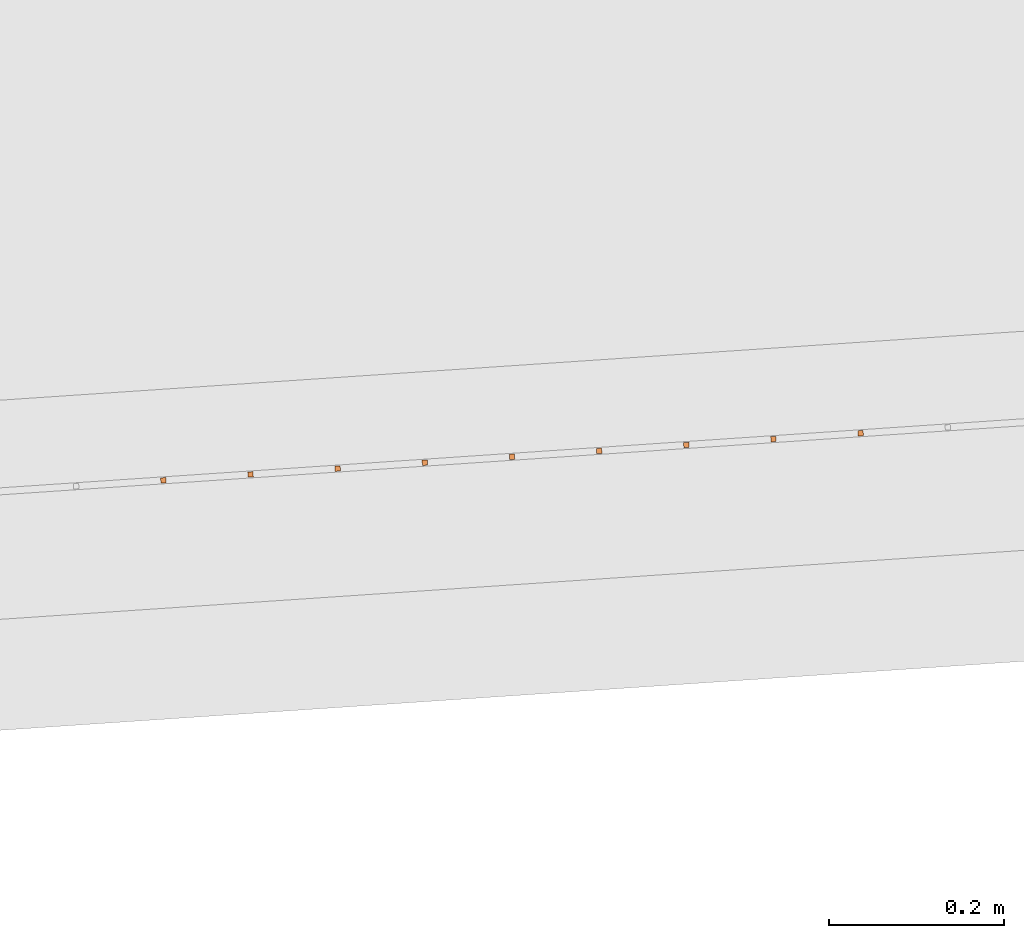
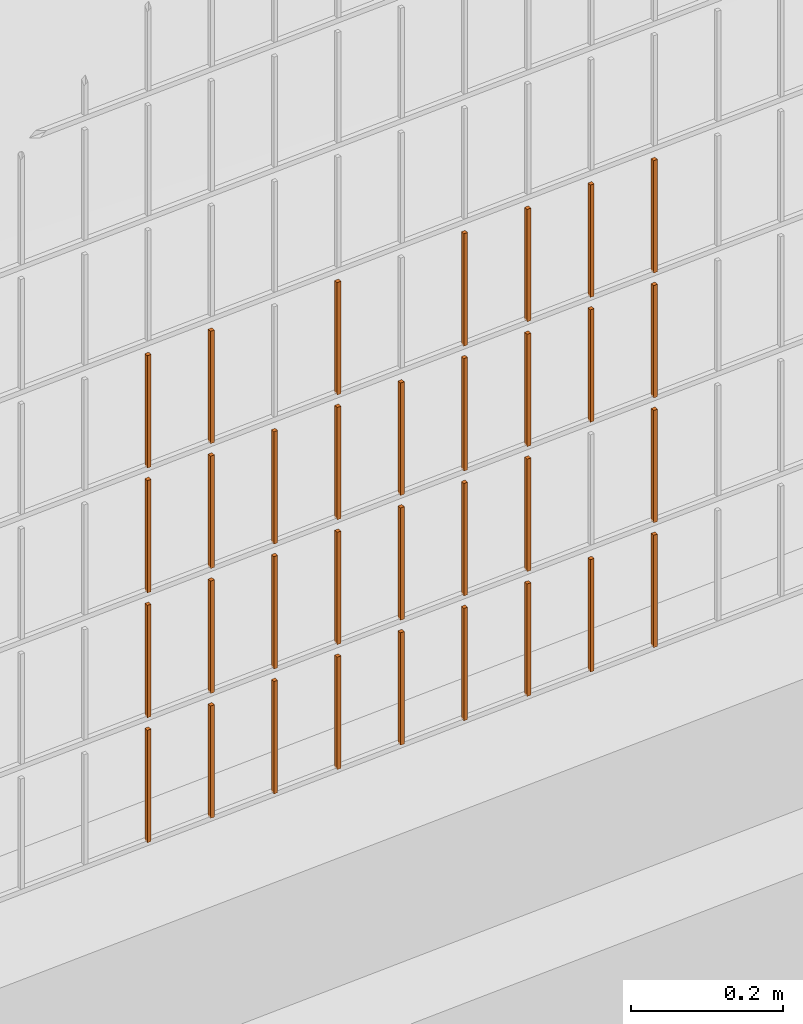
# One storey, part 361 of 1809: 33 proxies, 1 element without a shape of its own.
"""IFC2X3 building model written with IfcOpenShell, lengths in millimetres."""

from ifc_helpers import new_model, entity, si_unit, converted_unit, derived_unit, money_unit, direction, frame, origin_with_axes, place, context, subcontext, project, spatial, faceted_brep, source, transform, mapped, material, type_object, element, aggregate, save


model = new_model("IFC2X3")

# Units and contexts
model_context = context("Model", 3, precision=0.01, world=origin_with_axes(), true_north=direction((0.0, 1.0)))
body_context = subcontext(model_context, "Body", "Model", "MODEL_VIEW")
ifc_project = project(units=[si_unit("LENGTHUNIT", "METRE", prefix="MILLI"), si_unit("AREAUNIT", "SQUARE_METRE"), si_unit("VOLUMEUNIT", "CUBIC_METRE"), converted_unit("PLANEANGLEUNIT", "DEGREE", entity("IfcPlaneAngleMeasure", 0.0174532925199), si_unit("PLANEANGLEUNIT", "RADIAN"), dimensions=[0, 0, 0, 0, 0, 0, 0]), si_unit("SOLIDANGLEUNIT", "STERADIAN"), money_unit("EUR"), converted_unit("TIMEUNIT", "Year", entity("IfcTimeMeasure", 31556926.0), si_unit("TIMEUNIT", "SECOND"), dimensions=[0, 0, 1, 0, 0, 0, 0]), si_unit("MASSUNIT", "GRAM", prefix="KILO"), si_unit("THERMODYNAMICTEMPERATUREUNIT", "DEGREE_CELSIUS"), si_unit("LUMINOUSINTENSITYUNIT", "LUMEN"), si_unit("ENERGYUNIT", "JOULE", prefix="MEGA"), derived_unit("THERMALCONDUCTANCEUNIT", [(si_unit("POWERUNIT", "WATT"), 1), (si_unit("LENGTHUNIT", "METRE"), -1), (si_unit("THERMODYNAMICTEMPERATUREUNIT", "KELVIN"), -1)]), derived_unit("SPECIFICHEATCAPACITYUNIT", [(si_unit("ENERGYUNIT", "JOULE"), 1), (si_unit("MASSUNIT", "GRAM", prefix="KILO"), -1), (si_unit("THERMODYNAMICTEMPERATUREUNIT", "KELVIN"), -1)]), derived_unit("MASSDENSITYUNIT", [(si_unit("MASSUNIT", "GRAM", prefix="KILO"), 1), (si_unit("VOLUMEUNIT", "CUBIC_METRE"), -1)])], contexts=[model_context])

# Site, building, storey
site_placement = place(None, origin_with_axes())
site = spatial("IfcSite", under=ifc_project, at=site_placement, Name="Politse- ja Piirivalveameti ning Päästeameti ühishoone", CompositionType="ELEMENT")
building_placement = place(site_placement, origin_with_axes())
building = spatial("IfcBuilding", under=site, at=building_placement, Name="Politse- ja Piirivalveameti ning Päästeameti ühishoone", CompositionType="ELEMENT")
storey_placement = place(building_placement, origin_with_axes())
storey = spatial("IfcBuildingStorey", under=building, at=storey_placement, Name="Esimene korrus", CompositionType="ELEMENT", Elevation=0.0)

# Proxies
building_element_proxy_type_1 = type_object("IfcBuildingElementProxyType", Name="Railing Type", PredefinedType="NOTDEFINED")
proxy_1_placement = place(storey_placement, frame((89252.001212, -29183.4766571, 203.661247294), z_axis=(0.0, 0.0, 1.0), x_axis=(1.0, 0.0, 0.0)))
proxy_1 = element("IfcBuildingElementProxy", 1, at=proxy_1_placement, inside=storey, type_object=building_element_proxy_type_1, Name="PIIRDEAED")
ifc_material = material(Name="ET-03_Raud")
building_element_proxy_type_2 = type_object("IfcBuildingElementProxyType", Name="IfcBuildingElementProxy", PredefinedType="NOTDEFINED")
shared_shape_1 = source(origin_with_axes(), body_context, "Body", "Brep", [
    faceted_brep([(3.0, 3.0, -0.000752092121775), (-3.0, 3.0, -0.000752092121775), (-3.0, 3.0, 179.99926046), (3.0, 3.0, 179.99926046), (3.0, -3.0, 0.000752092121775), (-3.0, -3.0, 0.000752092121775), (-3.0, -3.0, 180.000764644), (3.0, -3.0, 180.000764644)], [[[0, 1, 2, 3]], [[0, 4, 5, 1]], [[1, 5, 6, 2]], [[3, 2, 6, 7]], [[4, 0, 3, 7]], [[5, 4, 7, 6]]]),
])
proxy_2_placement = place(proxy_1_placement, frame((-23473.2007557, -18883.300888, 21.3363066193), z_axis=(0.0, 0.0, 1.0), x_axis=(1.0, 0.0, 0.0)))
proxy_2 = element("IfcBuildingElementProxy", 2, at=proxy_2_placement, type_object=building_element_proxy_type_2, material=ifc_material, Name="BALUSTER - 001", context=body_context, shape_type="MappedRepresentation", body=[
    mapped(shared_shape_1, transform((0.0, 0.0, 0.0), x_axis=(-0.0673926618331, 0.997726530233, 0.0), y_axis=(-0.997726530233, -0.0673926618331, 0.0), z_axis=(0.0, 0.0, 1.0))),
])
proxy_3_placement = place(proxy_1_placement, frame((-23473.2007557, -18883.300888, 221.336306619), z_axis=(0.0, 0.0, 1.0), x_axis=(1.0, 0.0, 0.0)))
proxy_3 = element("IfcBuildingElementProxy", 3, at=proxy_3_placement, type_object=building_element_proxy_type_2, material=ifc_material, Name="BALUSTER - 001", context=body_context, shape_type="MappedRepresentation", body=[
    mapped(shared_shape_1, transform((0.0, 0.0, 0.0), x_axis=(-0.0673926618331, 0.997726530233, 0.0), y_axis=(-0.997726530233, -0.0673926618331, 0.0), z_axis=(0.0, 0.0, 1.0))),
])
shared_shape_2 = source(origin_with_axes(), body_context, "Body", "Brep", [
    faceted_brep([(3.0, 3.0, -0.000752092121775), (-3.0, 3.0, -0.000752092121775), (-3.0, 3.0, 179.99926046), (3.0, 3.0, 179.99926046), (3.0, -3.0, 0.000752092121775), (-3.0, -3.0, 0.000752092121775), (-3.0, -3.0, 180.000764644), (3.0, -3.0, 180.000764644)], [[[0, 1, 2, 3]], [[0, 4, 5, 1]], [[1, 5, 6, 2]], [[3, 2, 6, 7]], [[4, 0, 3, 7]], [[5, 4, 7, 6]]]),
])
proxy_4_placement = place(proxy_1_placement, frame((-23473.2007557, -18883.300888, 421.336306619), z_axis=(0.0, 0.0, 1.0), x_axis=(1.0, 0.0, 0.0)))
proxy_4 = element("IfcBuildingElementProxy", 4, at=proxy_4_placement, type_object=building_element_proxy_type_2, material=ifc_material, Name="BALUSTER - 001", context=body_context, shape_type="MappedRepresentation", body=[
    mapped(shared_shape_2, transform((0.0, 0.0, 0.0), x_axis=(-0.0673926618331, 0.997726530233, 0.0), y_axis=(-0.997726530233, -0.0673926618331, 0.0), z_axis=(0.0, 0.0, 1.0))),
])
shared_shape_3 = source(origin_with_axes(), body_context, "Body", "Brep", [
    faceted_brep([(3.0, 3.0, -0.000752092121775), (-3.0, 3.0, -0.000752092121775), (-3.0, 3.0, 179.99926046), (3.0, 3.0, 179.99926046), (3.0, -3.0, 0.000752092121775), (-3.0, -3.0, 0.000752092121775), (-3.0, -3.0, 180.000764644), (3.0, -3.0, 180.000764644)], [[[0, 1, 2, 3]], [[0, 4, 5, 1]], [[1, 5, 6, 2]], [[3, 2, 6, 7]], [[4, 0, 3, 7]], [[5, 4, 7, 6]]]),
])
proxy_5_placement = place(proxy_1_placement, frame((-23473.2007557, -18883.300888, 621.336306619), z_axis=(0.0, 0.0, 1.0), x_axis=(1.0, 0.0, 0.0)))
proxy_5 = element("IfcBuildingElementProxy", 5, at=proxy_5_placement, type_object=building_element_proxy_type_2, material=ifc_material, Name="BALUSTER - 001", context=body_context, shape_type="MappedRepresentation", body=[
    mapped(shared_shape_3, transform((0.0, 0.0, 0.0), x_axis=(-0.0673926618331, 0.997726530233, 0.0), y_axis=(-0.997726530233, -0.0673926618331, 0.0), z_axis=(0.0, 0.0, 1.0))),
])
shared_shape_4 = source(origin_with_axes(), body_context, "Body", "Brep", [
    faceted_brep([(3.0, 3.0, -0.000752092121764), (-3.0, 3.0, -0.000752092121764), (-3.0, 3.0, 179.99926046), (3.0, 3.0, 179.99926046), (3.0, -3.0, 0.000752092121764), (-3.0, -3.0, 0.000752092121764), (-3.0, -3.0, 180.000764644), (3.0, -3.0, 180.000764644)], [[[0, 1, 2, 3]], [[0, 4, 5, 1]], [[1, 5, 6, 2]], [[3, 2, 6, 7]], [[4, 0, 3, 7]], [[5, 4, 7, 6]]]),
])
proxy_6_placement = place(proxy_1_placement, frame((-23872.2913678, -18910.2579527, 21.2360276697), z_axis=(0.0, 0.0, 1.0), x_axis=(1.0, 0.0, 0.0)))
proxy_6 = element("IfcBuildingElementProxy", 6, at=proxy_6_placement, type_object=building_element_proxy_type_2, material=ifc_material, Name="BALUSTER - 001", context=body_context, shape_type="MappedRepresentation", body=[
    mapped(shared_shape_4, transform((0.0, 0.0, 0.0), x_axis=(-0.0673926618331, 0.997726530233, 0.0), y_axis=(-0.997726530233, -0.0673926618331, 0.0), z_axis=(0.0, 0.0, 1.0))),
])
shared_shape_5 = source(origin_with_axes(), body_context, "Body", "Brep", [
    faceted_brep([(3.0, 3.0, -0.000752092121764), (-3.0, 3.0, -0.000752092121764), (-3.0, 3.0, 179.99926046), (3.0, 3.0, 179.99926046), (3.0, -3.0, 0.000752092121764), (-3.0, -3.0, 0.000752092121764), (-3.0, -3.0, 180.000764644), (3.0, -3.0, 180.000764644)], [[[0, 1, 2, 3]], [[0, 4, 5, 1]], [[1, 5, 6, 2]], [[3, 2, 6, 7]], [[4, 0, 3, 7]], [[5, 4, 7, 6]]]),
])
proxy_7_placement = place(proxy_1_placement, frame((-23872.2913678, -18910.2579527, 621.23602767), z_axis=(0.0, 0.0, 1.0), x_axis=(1.0, 0.0, 0.0)))
proxy_7 = element("IfcBuildingElementProxy", 7, at=proxy_7_placement, type_object=building_element_proxy_type_2, material=ifc_material, Name="BALUSTER - 001", context=body_context, shape_type="MappedRepresentation", body=[
    mapped(shared_shape_5, transform((0.0, 0.0, 0.0), x_axis=(-0.0673926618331, 0.997726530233, 0.0), y_axis=(-0.997726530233, -0.0673926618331, 0.0), z_axis=(0.0, 0.0, 1.0))),
])
shared_shape_6 = source(origin_with_axes(), body_context, "Body", "Brep", [
    faceted_brep([(3.0, 3.0, -0.000752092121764), (-3.0, 3.0, -0.000752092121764), (-3.0, 3.0, 179.99926046), (3.0, 3.0, 179.99926046), (3.0, -3.0, 0.000752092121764), (-3.0, -3.0, 0.000752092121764), (-3.0, -3.0, 180.000764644), (3.0, -3.0, 180.000764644)], [[[0, 1, 2, 3]], [[0, 4, 5, 1]], [[1, 5, 6, 2]], [[3, 2, 6, 7]], [[4, 0, 3, 7]], [[5, 4, 7, 6]]]),
])
proxy_8_placement = place(proxy_1_placement, frame((-23373.4281026, -18876.5616218, 21.3613763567), z_axis=(0.0, 0.0, 1.0), x_axis=(1.0, 0.0, 0.0)))
proxy_8 = element("IfcBuildingElementProxy", 8, at=proxy_8_placement, type_object=building_element_proxy_type_2, material=ifc_material, Name="BALUSTER - 001", context=body_context, shape_type="MappedRepresentation", body=[
    mapped(shared_shape_6, transform((0.0, 0.0, 0.0), x_axis=(-0.0673926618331, 0.997726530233, 0.0), y_axis=(-0.997726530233, -0.0673926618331, 0.0), z_axis=(0.0, 0.0, 1.0))),
])
shared_shape_7 = source(origin_with_axes(), body_context, "Body", "Brep", [
    faceted_brep([(3.0, 3.0, -0.000752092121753), (-3.0, 3.0, -0.000752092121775), (-3.0, 3.0, 179.99926046), (3.0, 3.0, 179.99926046), (3.0, -3.0, 0.000752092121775), (-3.0, -3.0, 0.000752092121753), (-3.0, -3.0, 180.000764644), (3.0, -3.0, 180.000764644)], [[[0, 1, 2, 3]], [[0, 4, 5, 1]], [[1, 5, 6, 2]], [[3, 2, 6, 7]], [[4, 0, 3, 7]], [[5, 4, 7, 6]]]),
])
proxy_9_placement = place(proxy_1_placement, frame((-23173.8827966, -18863.0830894, 21.4115158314), z_axis=(0.0, 0.0, 1.0), x_axis=(1.0, 0.0, 0.0)))
proxy_9 = element("IfcBuildingElementProxy", 9, at=proxy_9_placement, type_object=building_element_proxy_type_2, material=ifc_material, Name="BALUSTER - 001", context=body_context, shape_type="MappedRepresentation", body=[
    mapped(shared_shape_7, transform((0.0, 0.0, 0.0), x_axis=(-0.0673926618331, 0.997726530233, 0.0), y_axis=(-0.997726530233, -0.0673926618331, 0.0), z_axis=(0.0, 0.0, 1.0))),
])
shared_shape_8 = source(origin_with_axes(), body_context, "Body", "Brep", [
    faceted_brep([(3.0, 3.0, -0.000752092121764), (-3.0, 3.0, -0.000752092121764), (-3.0, 3.0, 179.99926046), (3.0, 3.0, 179.99926046), (3.0, -3.0, 0.000752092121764), (-3.0, -3.0, 0.000752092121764), (-3.0, -3.0, 180.000764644), (3.0, -3.0, 180.000764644)], [[[0, 1, 2, 3]], [[0, 4, 5, 1]], [[1, 5, 6, 2]], [[3, 2, 6, 7]], [[4, 0, 3, 7]], [[5, 4, 7, 6]]]),
])
proxy_10_placement = place(proxy_1_placement, frame((-23273.6554496, -18869.8223556, 21.386446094), z_axis=(0.0, 0.0, 1.0), x_axis=(1.0, 0.0, 0.0)))
proxy_10 = element("IfcBuildingElementProxy", 10, at=proxy_10_placement, type_object=building_element_proxy_type_2, material=ifc_material, Name="BALUSTER - 001", context=body_context, shape_type="MappedRepresentation", body=[
    mapped(shared_shape_8, transform((0.0, 0.0, 0.0), x_axis=(-0.0673926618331, 0.997726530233, 0.0), y_axis=(-0.997726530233, -0.0673926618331, 0.0), z_axis=(0.0, 0.0, 1.0))),
])
shared_shape_9 = source(origin_with_axes(), body_context, "Body", "Brep", [
    faceted_brep([(3.0, 3.0, -0.000752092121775), (-3.0, 3.0, -0.000752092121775), (-3.0, 3.0, 179.99926046), (3.0, 3.0, 179.99926046), (3.0, -3.0, 0.000752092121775), (-3.0, -3.0, 0.000752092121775), (-3.0, -3.0, 180.000764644), (3.0, -3.0, 180.000764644)], [[[0, 1, 2, 3]], [[0, 4, 5, 1]], [[1, 5, 6, 2]], [[3, 2, 6, 7]], [[4, 0, 3, 7]], [[5, 4, 7, 6]]]),
])
proxy_11_placement = place(proxy_1_placement, frame((-23572.9734087, -18890.0401542, 21.3112368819), z_axis=(0.0, 0.0, 1.0), x_axis=(1.0, 0.0, 0.0)))
proxy_11 = element("IfcBuildingElementProxy", 11, at=proxy_11_placement, type_object=building_element_proxy_type_2, material=ifc_material, Name="BALUSTER - 001", context=body_context, shape_type="MappedRepresentation", body=[
    mapped(shared_shape_9, transform((0.0, 0.0, 0.0), x_axis=(-0.0673926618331, 0.997726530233, 0.0), y_axis=(-0.997726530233, -0.0673926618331, 0.0), z_axis=(0.0, 0.0, 1.0))),
])
shared_shape_10 = source(origin_with_axes(), body_context, "Body", "Brep", [
    faceted_brep([(3.0, 3.0, -0.000752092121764), (-3.0, 3.0, -0.000752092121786), (-3.0, 3.0, 179.99926046), (3.0, 3.0, 179.99926046), (3.0, -3.0, 0.000752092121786), (-3.0, -3.0, 0.000752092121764), (-3.0, -3.0, 180.000764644), (3.0, -3.0, 180.000764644)], [[[0, 1, 2, 3]], [[0, 4, 5, 1]], [[1, 5, 6, 2]], [[3, 2, 6, 7]], [[4, 0, 3, 7]], [[5, 4, 7, 6]]]),
])
proxy_12_placement = place(proxy_1_placement, frame((-23672.7460617, -18896.7794204, 21.2861671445), z_axis=(0.0, 0.0, 1.0), x_axis=(1.0, 0.0, 0.0)))
proxy_12 = element("IfcBuildingElementProxy", 12, at=proxy_12_placement, type_object=building_element_proxy_type_2, material=ifc_material, Name="BALUSTER - 001", context=body_context, shape_type="MappedRepresentation", body=[
    mapped(shared_shape_10, transform((0.0, 0.0, 0.0), x_axis=(-0.0673926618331, 0.997726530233, 0.0), y_axis=(-0.997726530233, -0.0673926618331, 0.0), z_axis=(0.0, 0.0, 1.0))),
])
shared_shape_11 = source(origin_with_axes(), body_context, "Body", "Brep", [
    faceted_brep([(3.0, 3.0, -0.000752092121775), (-3.0, 3.0, -0.000752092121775), (-3.0, 3.0, 179.99926046), (3.0, 3.0, 179.99926046), (3.0, -3.0, 0.000752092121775), (-3.0, -3.0, 0.000752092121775), (-3.0, -3.0, 180.000764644), (3.0, -3.0, 180.000764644)], [[[0, 1, 2, 3]], [[0, 4, 5, 1]], [[1, 5, 6, 2]], [[3, 2, 6, 7]], [[4, 0, 3, 7]], [[5, 4, 7, 6]]]),
])
proxy_13_placement = place(proxy_1_placement, frame((-23772.5187147, -18903.5186865, 21.2610974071), z_axis=(0.0, 0.0, 1.0), x_axis=(1.0, 0.0, 0.0)))
proxy_13 = element("IfcBuildingElementProxy", 13, at=proxy_13_placement, type_object=building_element_proxy_type_2, material=ifc_material, Name="BALUSTER - 001", context=body_context, shape_type="MappedRepresentation", body=[
    mapped(shared_shape_11, transform((0.0, 0.0, 0.0), x_axis=(-0.0673926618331, 0.997726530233, 0.0), y_axis=(-0.997726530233, -0.0673926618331, 0.0), z_axis=(0.0, 0.0, 1.0))),
])
shared_shape_12 = source(origin_with_axes(), body_context, "Body", "Brep", [
    faceted_brep([(3.0, 3.0, -0.000752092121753), (-3.0, 3.0, -0.000752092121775), (-3.0, 3.0, 179.99926046), (3.0, 3.0, 179.99926046), (3.0, -3.0, 0.000752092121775), (-3.0, -3.0, 0.000752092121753), (-3.0, -3.0, 180.000764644), (3.0, -3.0, 180.000764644)], [[[0, 1, 2, 3]], [[0, 4, 5, 1]], [[1, 5, 6, 2]], [[3, 2, 6, 7]], [[4, 0, 3, 7]], [[5, 4, 7, 6]]]),
])
proxy_14_placement = place(proxy_1_placement, frame((-23972.0640208, -18916.9972189, 21.2109579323), z_axis=(0.0, 0.0, 1.0), x_axis=(1.0, 0.0, 0.0)))
proxy_14 = element("IfcBuildingElementProxy", 14, at=proxy_14_placement, type_object=building_element_proxy_type_2, material=ifc_material, Name="BALUSTER - 001", context=body_context, shape_type="MappedRepresentation", body=[
    mapped(shared_shape_12, transform((0.0, 0.0, 0.0), x_axis=(-0.0673926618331, 0.997726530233, 0.0), y_axis=(-0.997726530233, -0.0673926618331, 0.0), z_axis=(0.0, 0.0, 1.0))),
])
shared_shape_13 = source(origin_with_axes(), body_context, "Body", "Brep", [
    faceted_brep([(3.0, 3.0, -0.000752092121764), (-3.0, 3.0, -0.000752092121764), (-3.0, 3.0, 179.99926046), (3.0, 3.0, 179.99926046), (3.0, -3.0, 0.000752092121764), (-3.0, -3.0, 0.000752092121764), (-3.0, -3.0, 180.000764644), (3.0, -3.0, 180.000764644)], [[[0, 1, 2, 3]], [[0, 4, 5, 1]], [[1, 5, 6, 2]], [[3, 2, 6, 7]], [[4, 0, 3, 7]], [[5, 4, 7, 6]]]),
])
proxy_15_placement = place(proxy_1_placement, frame((-23373.4281026, -18876.5616218, 421.361376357), z_axis=(0.0, 0.0, 1.0), x_axis=(1.0, 0.0, 0.0)))
proxy_15 = element("IfcBuildingElementProxy", 15, at=proxy_15_placement, type_object=building_element_proxy_type_2, material=ifc_material, Name="BALUSTER - 001", context=body_context, shape_type="MappedRepresentation", body=[
    mapped(shared_shape_13, transform((0.0, 0.0, 0.0), x_axis=(-0.0673926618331, 0.997726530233, 0.0), y_axis=(-0.997726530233, -0.0673926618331, 0.0), z_axis=(0.0, 0.0, 1.0))),
])
proxy_16_placement = place(proxy_1_placement, frame((-23273.6554496, -18869.8223556, 621.386446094), z_axis=(0.0, 0.0, 1.0), x_axis=(1.0, 0.0, 0.0)))
proxy_16 = element("IfcBuildingElementProxy", 16, at=proxy_16_placement, type_object=building_element_proxy_type_2, material=ifc_material, Name="BALUSTER - 001", context=body_context, shape_type="MappedRepresentation", body=[
    mapped(shared_shape_13, transform((0.0, 0.0, 0.0), x_axis=(-0.0673926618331, 0.997726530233, 0.0), y_axis=(-0.997726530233, -0.0673926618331, 0.0), z_axis=(0.0, 0.0, 1.0))),
])
shared_shape_14 = source(origin_with_axes(), body_context, "Body", "Brep", [
    faceted_brep([(3.0, 3.0, -0.000752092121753), (-3.0, 3.0, -0.000752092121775), (-3.0, 3.0, 179.99926046), (3.0, 3.0, 179.99926046), (3.0, -3.0, 0.000752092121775), (-3.0, -3.0, 0.000752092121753), (-3.0, -3.0, 180.000764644), (3.0, -3.0, 180.000764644)], [[[0, 1, 2, 3]], [[0, 4, 5, 1]], [[1, 5, 6, 2]], [[3, 2, 6, 7]], [[4, 0, 3, 7]], [[5, 4, 7, 6]]]),
])
proxy_17_placement = place(proxy_1_placement, frame((-23173.8827966, -18863.0830894, 221.411515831), z_axis=(0.0, 0.0, 1.0), x_axis=(1.0, 0.0, 0.0)))
proxy_17 = element("IfcBuildingElementProxy", 17, at=proxy_17_placement, type_object=building_element_proxy_type_2, material=ifc_material, Name="BALUSTER - 001", context=body_context, shape_type="MappedRepresentation", body=[
    mapped(shared_shape_14, transform((0.0, 0.0, 0.0), x_axis=(-0.0673926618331, 0.997726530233, 0.0), y_axis=(-0.997726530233, -0.0673926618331, 0.0), z_axis=(0.0, 0.0, 1.0))),
])
proxy_18_placement = place(proxy_1_placement, frame((-23173.8827966, -18863.0830894, 421.411515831), z_axis=(0.0, 0.0, 1.0), x_axis=(1.0, 0.0, 0.0)))
proxy_18 = element("IfcBuildingElementProxy", 18, at=proxy_18_placement, type_object=building_element_proxy_type_2, material=ifc_material, Name="BALUSTER - 001", context=body_context, shape_type="MappedRepresentation", body=[
    mapped(shared_shape_14, transform((0.0, 0.0, 0.0), x_axis=(-0.0673926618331, 0.997726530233, 0.0), y_axis=(-0.997726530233, -0.0673926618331, 0.0), z_axis=(0.0, 0.0, 1.0))),
])
shared_shape_15 = source(origin_with_axes(), body_context, "Body", "Brep", [
    faceted_brep([(3.0, 3.0, -0.000752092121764), (-3.0, 3.0, -0.000752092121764), (-3.0, 3.0, 179.99926046), (3.0, 3.0, 179.99926046), (3.0, -3.0, 0.000752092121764), (-3.0, -3.0, 0.000752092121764), (-3.0, -3.0, 180.000764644), (3.0, -3.0, 180.000764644)], [[[0, 1, 2, 3]], [[0, 4, 5, 1]], [[1, 5, 6, 2]], [[3, 2, 6, 7]], [[4, 0, 3, 7]], [[5, 4, 7, 6]]]),
])
proxy_19_placement = place(proxy_1_placement, frame((-23373.4281026, -18876.5616218, 221.361376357), z_axis=(0.0, 0.0, 1.0), x_axis=(1.0, 0.0, 0.0)))
proxy_19 = element("IfcBuildingElementProxy", 19, at=proxy_19_placement, type_object=building_element_proxy_type_2, material=ifc_material, Name="BALUSTER - 001", context=body_context, shape_type="MappedRepresentation", body=[
    mapped(shared_shape_15, transform((0.0, 0.0, 0.0), x_axis=(-0.0673926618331, 0.997726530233, 0.0), y_axis=(-0.997726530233, -0.0673926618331, 0.0), z_axis=(0.0, 0.0, 1.0))),
])
shared_shape_16 = source(origin_with_axes(), body_context, "Body", "Brep", [
    faceted_brep([(3.0, 3.0, -0.000752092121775), (-3.0, 3.0, -0.000752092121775), (-3.0, 3.0, 179.99926046), (3.0, 3.0, 179.99926046), (3.0, -3.0, 0.000752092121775), (-3.0, -3.0, 0.000752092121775), (-3.0, -3.0, 180.000764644), (3.0, -3.0, 180.000764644)], [[[0, 1, 2, 3]], [[0, 4, 5, 1]], [[1, 5, 6, 2]], [[3, 2, 6, 7]], [[4, 0, 3, 7]], [[5, 4, 7, 6]]]),
])
proxy_20_placement = place(proxy_1_placement, frame((-23572.9734087, -18890.0401542, 221.311236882), z_axis=(0.0, 0.0, 1.0), x_axis=(1.0, 0.0, 0.0)))
proxy_20 = element("IfcBuildingElementProxy", 20, at=proxy_20_placement, type_object=building_element_proxy_type_2, material=ifc_material, Name="BALUSTER - 001", context=body_context, shape_type="MappedRepresentation", body=[
    mapped(shared_shape_16, transform((0.0, 0.0, 0.0), x_axis=(-0.0673926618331, 0.997726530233, 0.0), y_axis=(-0.997726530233, -0.0673926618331, 0.0), z_axis=(0.0, 0.0, 1.0))),
])
proxy_21_placement = place(proxy_1_placement, frame((-23772.5187147, -18903.5186865, 421.261097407), z_axis=(0.0, 0.0, 1.0), x_axis=(1.0, 0.0, 0.0)))
proxy_21 = element("IfcBuildingElementProxy", 21, at=proxy_21_placement, type_object=building_element_proxy_type_2, material=ifc_material, Name="BALUSTER - 001", context=body_context, shape_type="MappedRepresentation", body=[
    mapped(shared_shape_16, transform((0.0, 0.0, 0.0), x_axis=(-0.0673926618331, 0.997726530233, 0.0), y_axis=(-0.997726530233, -0.0673926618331, 0.0), z_axis=(0.0, 0.0, 1.0))),
])
shared_shape_17 = source(origin_with_axes(), body_context, "Body", "Brep", [
    faceted_brep([(3.0, 3.0, -0.000752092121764), (-3.0, 3.0, -0.000752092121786), (-3.0, 3.0, 179.99926046), (3.0, 3.0, 179.99926046), (3.0, -3.0, 0.000752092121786), (-3.0, -3.0, 0.000752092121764), (-3.0, -3.0, 180.000764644), (3.0, -3.0, 180.000764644)], [[[0, 1, 2, 3]], [[0, 4, 5, 1]], [[1, 5, 6, 2]], [[3, 2, 6, 7]], [[4, 0, 3, 7]], [[5, 4, 7, 6]]]),
])
proxy_22_placement = place(proxy_1_placement, frame((-23672.7460617, -18896.7794204, 221.286167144), z_axis=(0.0, 0.0, 1.0), x_axis=(1.0, 0.0, 0.0)))
proxy_22 = element("IfcBuildingElementProxy", 22, at=proxy_22_placement, type_object=building_element_proxy_type_2, material=ifc_material, Name="BALUSTER - 001", context=body_context, shape_type="MappedRepresentation", body=[
    mapped(shared_shape_17, transform((0.0, 0.0, 0.0), x_axis=(-0.0673926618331, 0.997726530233, 0.0), y_axis=(-0.997726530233, -0.0673926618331, 0.0), z_axis=(0.0, 0.0, 1.0))),
])
proxy_23_placement = place(proxy_1_placement, frame((-23672.7460617, -18896.7794204, 421.286167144), z_axis=(0.0, 0.0, 1.0), x_axis=(1.0, 0.0, 0.0)))
proxy_23 = element("IfcBuildingElementProxy", 23, at=proxy_23_placement, type_object=building_element_proxy_type_2, material=ifc_material, Name="BALUSTER - 001", context=body_context, shape_type="MappedRepresentation", body=[
    mapped(shared_shape_17, transform((0.0, 0.0, 0.0), x_axis=(-0.0673926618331, 0.997726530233, 0.0), y_axis=(-0.997726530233, -0.0673926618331, 0.0), z_axis=(0.0, 0.0, 1.0))),
])
shared_shape_18 = source(origin_with_axes(), body_context, "Body", "Brep", [
    faceted_brep([(3.0, 3.0, -0.000752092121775), (-3.0, 3.0, -0.000752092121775), (-3.0, 3.0, 179.99926046), (3.0, 3.0, 179.99926046), (3.0, -3.0, 0.000752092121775), (-3.0, -3.0, 0.000752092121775), (-3.0, -3.0, 180.000764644), (3.0, -3.0, 180.000764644)], [[[0, 1, 2, 3]], [[0, 4, 5, 1]], [[1, 5, 6, 2]], [[3, 2, 6, 7]], [[4, 0, 3, 7]], [[5, 4, 7, 6]]]),
])
proxy_24_placement = place(proxy_1_placement, frame((-23772.5187147, -18903.5186865, 221.261097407), z_axis=(0.0, 0.0, 1.0), x_axis=(1.0, 0.0, 0.0)))
proxy_24 = element("IfcBuildingElementProxy", 24, at=proxy_24_placement, type_object=building_element_proxy_type_2, material=ifc_material, Name="BALUSTER - 001", context=body_context, shape_type="MappedRepresentation", body=[
    mapped(shared_shape_18, transform((0.0, 0.0, 0.0), x_axis=(-0.0673926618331, 0.997726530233, 0.0), y_axis=(-0.997726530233, -0.0673926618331, 0.0), z_axis=(0.0, 0.0, 1.0))),
])
proxy_25_placement = place(proxy_1_placement, frame((-23572.9734087, -18890.0401542, 421.311236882), z_axis=(0.0, 0.0, 1.0), x_axis=(1.0, 0.0, 0.0)))
proxy_25 = element("IfcBuildingElementProxy", 25, at=proxy_25_placement, type_object=building_element_proxy_type_2, material=ifc_material, Name="BALUSTER - 001", context=body_context, shape_type="MappedRepresentation", body=[
    mapped(shared_shape_18, transform((0.0, 0.0, 0.0), x_axis=(-0.0673926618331, 0.997726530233, 0.0), y_axis=(-0.997726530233, -0.0673926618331, 0.0), z_axis=(0.0, 0.0, 1.0))),
])
shared_shape_19 = source(origin_with_axes(), body_context, "Body", "Brep", [
    faceted_brep([(3.0, 3.0, -0.000752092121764), (-3.0, 3.0, -0.000752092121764), (-3.0, 3.0, 179.99926046), (3.0, 3.0, 179.99926046), (3.0, -3.0, 0.000752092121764), (-3.0, -3.0, 0.000752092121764), (-3.0, -3.0, 180.000764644), (3.0, -3.0, 180.000764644)], [[[0, 1, 2, 3]], [[0, 4, 5, 1]], [[1, 5, 6, 2]], [[3, 2, 6, 7]], [[4, 0, 3, 7]], [[5, 4, 7, 6]]]),
])
proxy_26_placement = place(proxy_1_placement, frame((-23872.2913678, -18910.2579527, 221.23602767), z_axis=(0.0, 0.0, 1.0), x_axis=(1.0, 0.0, 0.0)))
proxy_26 = element("IfcBuildingElementProxy", 26, at=proxy_26_placement, type_object=building_element_proxy_type_2, material=ifc_material, Name="BALUSTER - 001", context=body_context, shape_type="MappedRepresentation", body=[
    mapped(shared_shape_19, transform((0.0, 0.0, 0.0), x_axis=(-0.0673926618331, 0.997726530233, 0.0), y_axis=(-0.997726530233, -0.0673926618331, 0.0), z_axis=(0.0, 0.0, 1.0))),
])
shared_shape_20 = source(origin_with_axes(), body_context, "Body", "Brep", [
    faceted_brep([(3.0, 3.0, -0.000752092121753), (-3.0, 3.0, -0.000752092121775), (-3.0, 3.0, 179.99926046), (3.0, 3.0, 179.99926046), (3.0, -3.0, 0.000752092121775), (-3.0, -3.0, 0.000752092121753), (-3.0, -3.0, 180.000764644), (3.0, -3.0, 180.000764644)], [[[0, 1, 2, 3]], [[0, 4, 5, 1]], [[1, 5, 6, 2]], [[3, 2, 6, 7]], [[4, 0, 3, 7]], [[5, 4, 7, 6]]]),
])
proxy_27_placement = place(proxy_1_placement, frame((-23972.0640208, -18916.9972189, 221.210957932), z_axis=(0.0, 0.0, 1.0), x_axis=(1.0, 0.0, 0.0)))
proxy_27 = element("IfcBuildingElementProxy", 27, at=proxy_27_placement, type_object=building_element_proxy_type_2, material=ifc_material, Name="BALUSTER - 001", context=body_context, shape_type="MappedRepresentation", body=[
    mapped(shared_shape_20, transform((0.0, 0.0, 0.0), x_axis=(-0.0673926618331, 0.997726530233, 0.0), y_axis=(-0.997726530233, -0.0673926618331, 0.0), z_axis=(0.0, 0.0, 1.0))),
])
shared_shape_21 = source(origin_with_axes(), body_context, "Body", "Brep", [
    faceted_brep([(3.0, 3.0, -0.000752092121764), (-3.0, 3.0, -0.000752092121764), (-3.0, 3.0, 179.99926046), (3.0, 3.0, 179.99926046), (3.0, -3.0, 0.000752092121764), (-3.0, -3.0, 0.000752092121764), (-3.0, -3.0, 180.000764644), (3.0, -3.0, 180.000764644)], [[[0, 1, 2, 3]], [[0, 4, 5, 1]], [[1, 5, 6, 2]], [[3, 2, 6, 7]], [[4, 0, 3, 7]], [[5, 4, 7, 6]]]),
])
proxy_28_placement = place(proxy_1_placement, frame((-23273.6554496, -18869.8223556, 421.386446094), z_axis=(0.0, 0.0, 1.0), x_axis=(1.0, 0.0, 0.0)))
proxy_28 = element("IfcBuildingElementProxy", 28, at=proxy_28_placement, type_object=building_element_proxy_type_2, material=ifc_material, Name="BALUSTER - 001", context=body_context, shape_type="MappedRepresentation", body=[
    mapped(shared_shape_21, transform((0.0, 0.0, 0.0), x_axis=(-0.0673926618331, 0.997726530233, 0.0), y_axis=(-0.997726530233, -0.0673926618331, 0.0), z_axis=(0.0, 0.0, 1.0))),
])
shared_shape_22 = source(origin_with_axes(), body_context, "Body", "Brep", [
    faceted_brep([(3.0, 3.0, -0.000752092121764), (-3.0, 3.0, -0.000752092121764), (-3.0, 3.0, 179.99926046), (3.0, 3.0, 179.99926046), (3.0, -3.0, 0.000752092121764), (-3.0, -3.0, 0.000752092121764), (-3.0, -3.0, 180.000764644), (3.0, -3.0, 180.000764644)], [[[0, 1, 2, 3]], [[0, 4, 5, 1]], [[1, 5, 6, 2]], [[3, 2, 6, 7]], [[4, 0, 3, 7]], [[5, 4, 7, 6]]]),
])
proxy_29_placement = place(proxy_1_placement, frame((-23872.2913678, -18910.2579527, 421.23602767), z_axis=(0.0, 0.0, 1.0), x_axis=(1.0, 0.0, 0.0)))
proxy_29 = element("IfcBuildingElementProxy", 29, at=proxy_29_placement, type_object=building_element_proxy_type_2, material=ifc_material, Name="BALUSTER - 001", context=body_context, shape_type="MappedRepresentation", body=[
    mapped(shared_shape_22, transform((0.0, 0.0, 0.0), x_axis=(-0.0673926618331, 0.997726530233, 0.0), y_axis=(-0.997726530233, -0.0673926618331, 0.0), z_axis=(0.0, 0.0, 1.0))),
])
shared_shape_23 = source(origin_with_axes(), body_context, "Body", "Brep", [
    faceted_brep([(3.0, 3.0, -0.000752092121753), (-3.0, 3.0, -0.000752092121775), (-3.0, 3.0, 179.99926046), (3.0, 3.0, 179.99926046), (3.0, -3.0, 0.000752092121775), (-3.0, -3.0, 0.000752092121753), (-3.0, -3.0, 180.000764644), (3.0, -3.0, 180.000764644)], [[[0, 1, 2, 3]], [[0, 4, 5, 1]], [[1, 5, 6, 2]], [[3, 2, 6, 7]], [[4, 0, 3, 7]], [[5, 4, 7, 6]]]),
])
proxy_30_placement = place(proxy_1_placement, frame((-23972.0640208, -18916.9972189, 421.210957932), z_axis=(0.0, 0.0, 1.0), x_axis=(1.0, 0.0, 0.0)))
proxy_30 = element("IfcBuildingElementProxy", 30, at=proxy_30_placement, type_object=building_element_proxy_type_2, material=ifc_material, Name="BALUSTER - 001", context=body_context, shape_type="MappedRepresentation", body=[
    mapped(shared_shape_23, transform((0.0, 0.0, 0.0), x_axis=(-0.0673926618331, 0.997726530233, 0.0), y_axis=(-0.997726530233, -0.0673926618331, 0.0), z_axis=(0.0, 0.0, 1.0))),
])
shared_shape_24 = source(origin_with_axes(), body_context, "Body", "Brep", [
    faceted_brep([(3.0, 3.0, -0.000752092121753), (-3.0, 3.0, -0.000752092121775), (-3.0, 3.0, 179.99926046), (3.0, 3.0, 179.99926046), (3.0, -3.0, 0.000752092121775), (-3.0, -3.0, 0.000752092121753), (-3.0, -3.0, 180.000764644), (3.0, -3.0, 180.000764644)], [[[0, 1, 2, 3]], [[0, 4, 5, 1]], [[1, 5, 6, 2]], [[3, 2, 6, 7]], [[4, 0, 3, 7]], [[5, 4, 7, 6]]]),
])
proxy_31_placement = place(proxy_1_placement, frame((-23173.8827966, -18863.0830894, 621.411515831), z_axis=(0.0, 0.0, 1.0), x_axis=(1.0, 0.0, 0.0)))
proxy_31 = element("IfcBuildingElementProxy", 31, at=proxy_31_placement, type_object=building_element_proxy_type_2, material=ifc_material, Name="BALUSTER - 001", context=body_context, shape_type="MappedRepresentation", body=[
    mapped(shared_shape_24, transform((0.0, 0.0, 0.0), x_axis=(-0.0673926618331, 0.997726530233, 0.0), y_axis=(-0.997726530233, -0.0673926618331, 0.0), z_axis=(0.0, 0.0, 1.0))),
])
shared_shape_25 = source(origin_with_axes(), body_context, "Body", "Brep", [
    faceted_brep([(3.0, 3.0, -0.000752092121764), (-3.0, 3.0, -0.000752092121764), (-3.0, 3.0, 179.99926046), (3.0, 3.0, 179.99926046), (3.0, -3.0, 0.000752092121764), (-3.0, -3.0, 0.000752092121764), (-3.0, -3.0, 180.000764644), (3.0, -3.0, 180.000764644)], [[[0, 1, 2, 3]], [[0, 4, 5, 1]], [[1, 5, 6, 2]], [[3, 2, 6, 7]], [[4, 0, 3, 7]], [[5, 4, 7, 6]]]),
])
proxy_32_placement = place(proxy_1_placement, frame((-23373.4281026, -18876.5616218, 621.361376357), z_axis=(0.0, 0.0, 1.0), x_axis=(1.0, 0.0, 0.0)))
proxy_32 = element("IfcBuildingElementProxy", 32, at=proxy_32_placement, type_object=building_element_proxy_type_2, material=ifc_material, Name="BALUSTER - 001", context=body_context, shape_type="MappedRepresentation", body=[
    mapped(shared_shape_25, transform((0.0, 0.0, 0.0), x_axis=(-0.0673926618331, 0.997726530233, 0.0), y_axis=(-0.997726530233, -0.0673926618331, 0.0), z_axis=(0.0, 0.0, 1.0))),
])
shared_shape_26 = source(origin_with_axes(), body_context, "Body", "Brep", [
    faceted_brep([(3.0, 3.0, -0.000752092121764), (-3.0, 3.0, -0.000752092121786), (-3.0, 3.0, 179.99926046), (3.0, 3.0, 179.99926046), (3.0, -3.0, 0.000752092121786), (-3.0, -3.0, 0.000752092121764), (-3.0, -3.0, 180.000764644), (3.0, -3.0, 180.000764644)], [[[0, 1, 2, 3]], [[0, 4, 5, 1]], [[1, 5, 6, 2]], [[3, 2, 6, 7]], [[4, 0, 3, 7]], [[5, 4, 7, 6]]]),
])
proxy_33_placement = place(proxy_1_placement, frame((-23672.7460617, -18896.7794204, 621.286167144), z_axis=(0.0, 0.0, 1.0), x_axis=(1.0, 0.0, 0.0)))
proxy_33 = element("IfcBuildingElementProxy", 33, at=proxy_33_placement, type_object=building_element_proxy_type_2, material=ifc_material, Name="BALUSTER - 001", context=body_context, shape_type="MappedRepresentation", body=[
    mapped(shared_shape_26, transform((0.0, 0.0, 0.0), x_axis=(-0.0673926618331, 0.997726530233, 0.0), y_axis=(-0.997726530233, -0.0673926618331, 0.0), z_axis=(0.0, 0.0, 1.0))),
])
shared_shape_27 = source(origin_with_axes(), body_context, "Body", "Brep", [
    faceted_brep([(3.0, 3.0, -0.000752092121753), (-3.0, 3.0, -0.000752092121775), (-3.0, 3.0, 179.99926046), (3.0, 3.0, 179.99926046), (3.0, -3.0, 0.000752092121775), (-3.0, -3.0, 0.000752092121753), (-3.0, -3.0, 180.000764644), (3.0, -3.0, 180.000764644)], [[[0, 1, 2, 3]], [[0, 4, 5, 1]], [[1, 5, 6, 2]], [[3, 2, 6, 7]], [[4, 0, 3, 7]], [[5, 4, 7, 6]]]),
])
proxy_34_placement = place(proxy_1_placement, frame((-23972.0640208, -18916.9972189, 621.210957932), z_axis=(0.0, 0.0, 1.0), x_axis=(1.0, 0.0, 0.0)))
proxy_34 = element("IfcBuildingElementProxy", 34, at=proxy_34_placement, type_object=building_element_proxy_type_2, material=ifc_material, Name="BALUSTER - 001", context=body_context, shape_type="MappedRepresentation", body=[
    mapped(shared_shape_27, transform((0.0, 0.0, 0.0), x_axis=(-0.0673926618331, 0.997726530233, 0.0), y_axis=(-0.997726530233, -0.0673926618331, 0.0), z_axis=(0.0, 0.0, 1.0))),
])
aggregate(proxy_1, [proxy_9, proxy_10, proxy_8, proxy_2, proxy_11, proxy_12, proxy_13, proxy_6, proxy_14, proxy_17, proxy_19, proxy_3, proxy_20, proxy_22, proxy_24, proxy_26, proxy_27, proxy_18, proxy_28, proxy_15, proxy_4, proxy_25, proxy_23, proxy_21, proxy_29, proxy_30, proxy_31, proxy_16, proxy_32, proxy_5, proxy_33, proxy_7, proxy_34])

save(model, "model.ifc")
